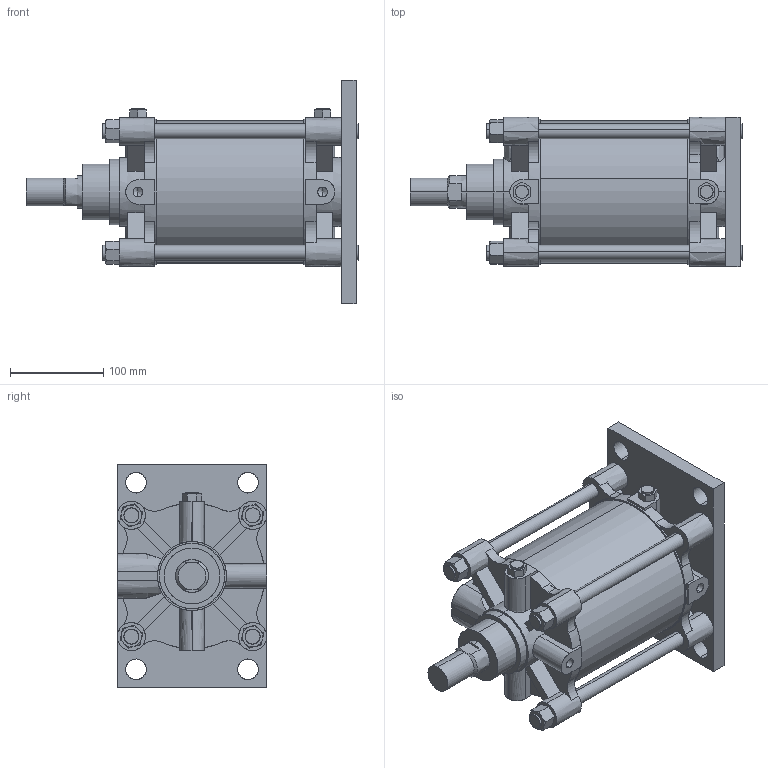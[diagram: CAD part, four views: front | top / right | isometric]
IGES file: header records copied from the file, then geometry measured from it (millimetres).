
Start section: SolidWorks IGES file using analytic representation for surfaces
Global section: file name: C:\Users\Toshiba\Desktop\A##2-140#-100-B.IGS; native system: SolidWorks 2014; preprocessor: SolidWorks 2014; author: Toshiba; date: 160331.145251; units: millimetre
Bounding box: 356 x 160 x 240 mm (x, y, z)
Surface area: 470446.1 mm2 (no closed solid volume)
Topology: 0 solids, 0 shells, 344 faces, 6704 edges, 6692 vertices
Faces by surface type: bspline 196, revolution 148
